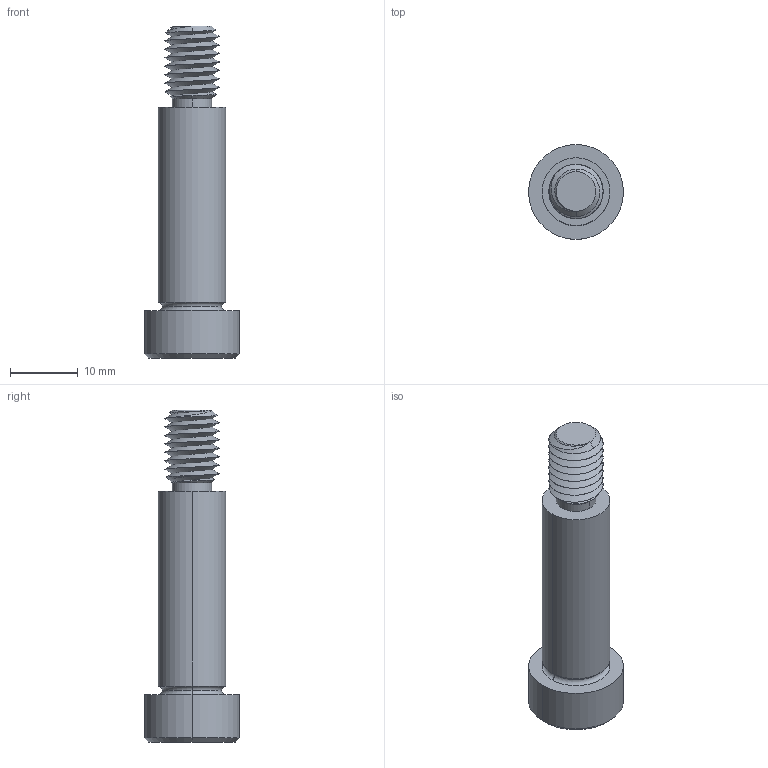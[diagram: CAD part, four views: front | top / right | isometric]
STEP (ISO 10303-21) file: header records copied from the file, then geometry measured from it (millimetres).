
FILE_DESCRIPTION (( 'STEP AP203' ), '1' );
FILE_NAME ('P0130.100-030-B8.step', '2021-11-09T21:53:54', ( '' ), ( '' ), 'SwSTEP 2.0', 'SolidWorks 2019', '' );
FILE_SCHEMA (( 'CONFIG_CONTROL_DESIGN' ));
Length unit declared in the file: millimetre
Products named in the file (1): P0130.100-030-B8
Bounding box: 14 x 14 x 49 mm (x, y, z)
Volume: 3723.4 mm3; surface area: 2120.4 mm2
Topology: 1 solids, 1 shells, 58 faces, 136 edges, 81 vertices
Faces by surface type: cylinder 21, plane 16, cone 15, torus 4, bspline 2
Entity records: 4214 total; most frequent: CARTESIAN_POINT 2911, ORIENTED_EDGE 268, DIRECTION 241, EDGE_CURVE 134, AXIS2_PLACEMENT_3D 97, VERTEX_POINT 81, EDGE_LOOP 61, ADVANCED_FACE 58
